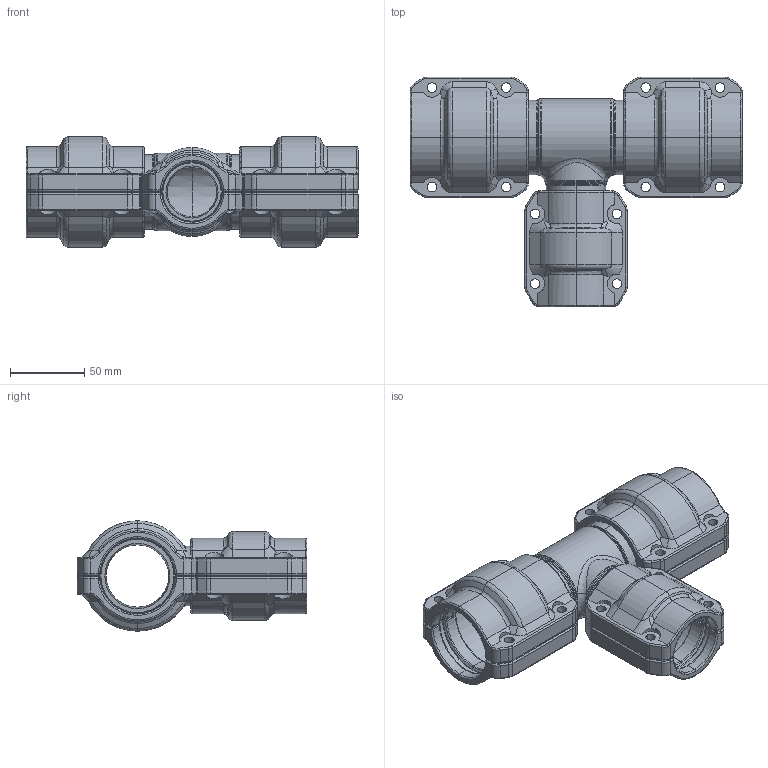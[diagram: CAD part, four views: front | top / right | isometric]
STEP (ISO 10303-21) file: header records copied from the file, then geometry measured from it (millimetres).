
FILE_DESCRIPTION(/* description */ (''),/* implementation_level */ '2;1');
FILE_NAME(/* name */ '5407_stp_stp.stp',/* time_stamp */ '2025-06-23T12:36:42+08:00',/* author */ (''),/* organization */ (''),/* preprocessor_version */ 'ST-DEVELOPER v11',/* originating_system */ 'SIEMENS PLM Software NX 7.5',/* authorisation */ '');
FILE_SCHEMA (('CONFIG_CONTROL_DESIGN'));
Length unit declared in the file: millimetre
Products named in the file (1): AdmiCFA3ahoh
Bounding box: 223.42 x 154.5 x 74.3 mm (x, y, z)
Volume: 352171.5 mm3; surface area: 177210.5 mm2
Topology: 7 solids, 7 shells, 1894 faces, 4506 edges, 2596 vertices
Faces by surface type: cylinder 625, torus 483, bspline 335, plane 243, cone 168, sphere 40
Entity records: 73805 total; most frequent: CARTESIAN_POINT 33172, ORIENTED_EDGE 8930, DIRECTION 7847, EDGE_CURVE 4465, AXIS2_PLACEMENT_3D 3253, VERTEX_POINT 2596, EDGE_LOOP 1957, ADVANCED_FACE 1894
